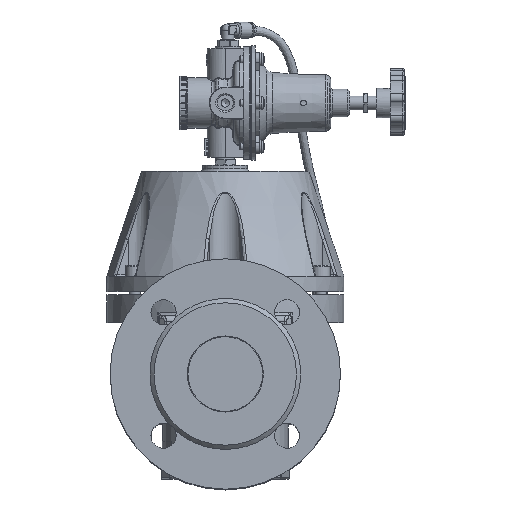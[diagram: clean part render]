
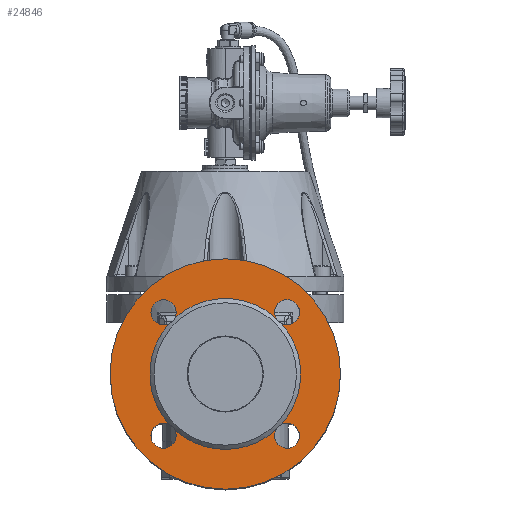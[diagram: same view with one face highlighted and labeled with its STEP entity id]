
A CAD part, top view. The second image highlights one B-rep face of the part: STEP entity #24846.
In plain terms, the highlighted planar face has unit normal (0, 0, 1) as drawn and (1, 0, 0) by its records, which use the part's own axes.
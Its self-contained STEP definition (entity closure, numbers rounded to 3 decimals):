
#1395=PLANE('',#27910);
#1554=FACE_BOUND('',#5176,.T.);
#3572=FACE_OUTER_BOUND('',#5175,.T.);
#5175=EDGE_LOOP('',(#22636));
#5176=EDGE_LOOP('',(#22637,#22638,#22639,#22640,#22641,#22642,#22643,#22644,
#22645,#22646,#22647,#22648,#22649));
#6776=CIRCLE('',#27899,9.);
#6777=CIRCLE('',#27900,9.);
#6779=CIRCLE('',#27903,9.);
#6780=CIRCLE('',#27904,9.);
#6782=CIRCLE('',#27907,9.);
#6783=CIRCLE('',#27908,9.);
#6785=CIRCLE('',#27911,82.5);
#6786=CIRCLE('',#27912,54.);
#6787=CIRCLE('',#27913,54.);
#6788=CIRCLE('',#27914,54.);
#6789=CIRCLE('',#27915,9.);
#6790=CIRCLE('',#27916,9.);
#6791=CIRCLE('',#27917,54.);
#6792=CIRCLE('',#27918,54.);
#11760=VERTEX_POINT('',#60623);
#11761=VERTEX_POINT('',#60624);
#11762=VERTEX_POINT('',#60626);
#11764=VERTEX_POINT('',#60638);
#11765=VERTEX_POINT('',#60639);
#11766=VERTEX_POINT('',#60641);
#11768=VERTEX_POINT('',#60653);
#11769=VERTEX_POINT('',#60654);
#11770=VERTEX_POINT('',#60656);
#11772=VERTEX_POINT('',#60668);
#11773=VERTEX_POINT('',#60670);
#11774=VERTEX_POINT('',#60673);
#11775=VERTEX_POINT('',#60675);
#11776=VERTEX_POINT('',#60677);
#15405=EDGE_CURVE('',#11760,#11761,#6776,.T.);
#15407=EDGE_CURVE('',#11761,#11762,#6777,.T.);
#15410=EDGE_CURVE('',#11764,#11765,#6779,.T.);
#15412=EDGE_CURVE('',#11765,#11766,#6780,.T.);
#15415=EDGE_CURVE('',#11768,#11769,#6782,.T.);
#15417=EDGE_CURVE('',#11769,#11770,#6783,.T.);
#15420=EDGE_CURVE('',#11772,#11772,#6785,.T.);
#15421=EDGE_CURVE('',#11773,#11762,#6786,.T.);
#15422=EDGE_CURVE('',#11764,#11773,#6787,.T.);
#15423=EDGE_CURVE('',#11774,#11766,#6788,.T.);
#15424=EDGE_CURVE('',#11774,#11775,#6789,.T.);
#15425=EDGE_CURVE('',#11775,#11776,#6790,.T.);
#15426=EDGE_CURVE('',#11768,#11776,#6791,.T.);
#15427=EDGE_CURVE('',#11760,#11770,#6792,.T.);
#22636=ORIENTED_EDGE('',*,*,#15420,.T.);
#22637=ORIENTED_EDGE('',*,*,#15405,.T.);
#22638=ORIENTED_EDGE('',*,*,#15407,.T.);
#22639=ORIENTED_EDGE('',*,*,#15421,.F.);
#22640=ORIENTED_EDGE('',*,*,#15422,.F.);
#22641=ORIENTED_EDGE('',*,*,#15410,.T.);
#22642=ORIENTED_EDGE('',*,*,#15412,.T.);
#22643=ORIENTED_EDGE('',*,*,#15423,.F.);
#22644=ORIENTED_EDGE('',*,*,#15424,.T.);
#22645=ORIENTED_EDGE('',*,*,#15425,.T.);
#22646=ORIENTED_EDGE('',*,*,#15426,.F.);
#22647=ORIENTED_EDGE('',*,*,#15415,.T.);
#22648=ORIENTED_EDGE('',*,*,#15417,.T.);
#22649=ORIENTED_EDGE('',*,*,#15427,.F.);
#24846=ADVANCED_FACE('',(#3572,#1554),#1395,.T.);
#27899=AXIS2_PLACEMENT_3D('',#60625,#35063,#35064);
#27900=AXIS2_PLACEMENT_3D('',#60633,#35065,#35066);
#27903=AXIS2_PLACEMENT_3D('',#60640,#35072,#35073);
#27904=AXIS2_PLACEMENT_3D('',#60648,#35074,#35075);
#27907=AXIS2_PLACEMENT_3D('',#60655,#35081,#35082);
#27908=AXIS2_PLACEMENT_3D('',#60663,#35083,#35084);
#27910=AXIS2_PLACEMENT_3D('',#60667,#35088,#35089);
#27911=AXIS2_PLACEMENT_3D('',#60669,#35090,#35091);
#27912=AXIS2_PLACEMENT_3D('',#60671,#35092,#35093);
#27913=AXIS2_PLACEMENT_3D('',#60672,#35094,#35095);
#27914=AXIS2_PLACEMENT_3D('',#60674,#35096,#35097);
#27915=AXIS2_PLACEMENT_3D('',#60676,#35098,#35099);
#27916=AXIS2_PLACEMENT_3D('',#60678,#35100,#35101);
#27917=AXIS2_PLACEMENT_3D('',#60679,#35102,#35103);
#27918=AXIS2_PLACEMENT_3D('',#60680,#35104,#35105);
#35063=DIRECTION('center_axis',(-1.,0.,0.));
#35064=DIRECTION('ref_axis',(0.,0.,-1.));
#35065=DIRECTION('center_axis',(-1.,0.,0.));
#35066=DIRECTION('ref_axis',(0.,0.,-1.));
#35072=DIRECTION('center_axis',(-1.,0.,0.));
#35073=DIRECTION('ref_axis',(0.,-1.,0.));
#35074=DIRECTION('center_axis',(-1.,0.,0.));
#35075=DIRECTION('ref_axis',(0.,-1.,0.));
#35081=DIRECTION('center_axis',(-1.,0.,0.));
#35082=DIRECTION('ref_axis',(0.,1.,0.));
#35083=DIRECTION('center_axis',(-1.,0.,0.));
#35084=DIRECTION('ref_axis',(0.,1.,0.));
#35088=DIRECTION('center_axis',(1.,0.,0.));
#35089=DIRECTION('ref_axis',(0.,0.,-1.));
#35090=DIRECTION('center_axis',(1.,0.,0.));
#35091=DIRECTION('ref_axis',(0.,1.,0.));
#35092=DIRECTION('center_axis',(1.,0.,0.));
#35093=DIRECTION('ref_axis',(0.,1.,0.));
#35094=DIRECTION('center_axis',(1.,0.,0.));
#35095=DIRECTION('ref_axis',(0.,1.,0.));
#35096=DIRECTION('center_axis',(1.,0.,0.));
#35097=DIRECTION('ref_axis',(0.,1.,0.));
#35098=DIRECTION('center_axis',(-1.,0.,0.));
#35099=DIRECTION('ref_axis',(0.,0.,1.));
#35100=DIRECTION('center_axis',(-1.,0.,0.));
#35101=DIRECTION('ref_axis',(0.,0.,1.));
#35102=DIRECTION('center_axis',(1.,0.,0.));
#35103=DIRECTION('ref_axis',(0.,1.,0.));
#35104=DIRECTION('center_axis',(1.,0.,0.));
#35105=DIRECTION('ref_axis',(0.,1.,0.));
#60623=CARTESIAN_POINT('',(35.986,-8.197,-40.078));
#60624=CARTESIAN_POINT('',(35.986,-16.201,-53.194));
#60625=CARTESIAN_POINT('Origin',(35.986,-16.201,-44.194));
#60626=CARTESIAN_POINT('',(35.986,-12.084,-36.191));
#60633=CARTESIAN_POINT('Origin',(35.986,-16.201,-44.194));
#60638=CARTESIAN_POINT('',(35.986,-12.084,36.191));
#60639=CARTESIAN_POINT('',(35.986,-25.201,44.194));
#60640=CARTESIAN_POINT('Origin',(35.986,-16.201,44.194));
#60641=CARTESIAN_POINT('',(35.986,-8.197,40.078));
#60648=CARTESIAN_POINT('Origin',(35.986,-16.201,44.194));
#60653=CARTESIAN_POINT('',(35.986,68.071,-36.191));
#60654=CARTESIAN_POINT('',(35.986,81.188,-44.194));
#60655=CARTESIAN_POINT('Origin',(35.986,72.188,-44.194));
#60656=CARTESIAN_POINT('',(35.986,64.184,-40.078));
#60663=CARTESIAN_POINT('Origin',(35.986,72.188,-44.194));
#60667=CARTESIAN_POINT('Origin',(35.986,96.243,0.));
#60668=CARTESIAN_POINT('',(35.986,-54.507,0.));
#60669=CARTESIAN_POINT('Origin',(35.986,27.993,0.));
#60670=CARTESIAN_POINT('',(35.986,-26.007,0.));
#60671=CARTESIAN_POINT('Origin',(35.986,27.993,0.));
#60672=CARTESIAN_POINT('Origin',(35.986,27.993,0.));
#60673=CARTESIAN_POINT('',(35.986,64.184,40.078));
#60674=CARTESIAN_POINT('Origin',(35.986,27.993,0.));
#60675=CARTESIAN_POINT('',(35.986,72.188,53.194));
#60676=CARTESIAN_POINT('Origin',(35.986,72.188,44.194));
#60677=CARTESIAN_POINT('',(35.986,68.071,36.191));
#60678=CARTESIAN_POINT('Origin',(35.986,72.188,44.194));
#60679=CARTESIAN_POINT('Origin',(35.986,27.993,0.));
#60680=CARTESIAN_POINT('Origin',(35.986,27.993,0.));
